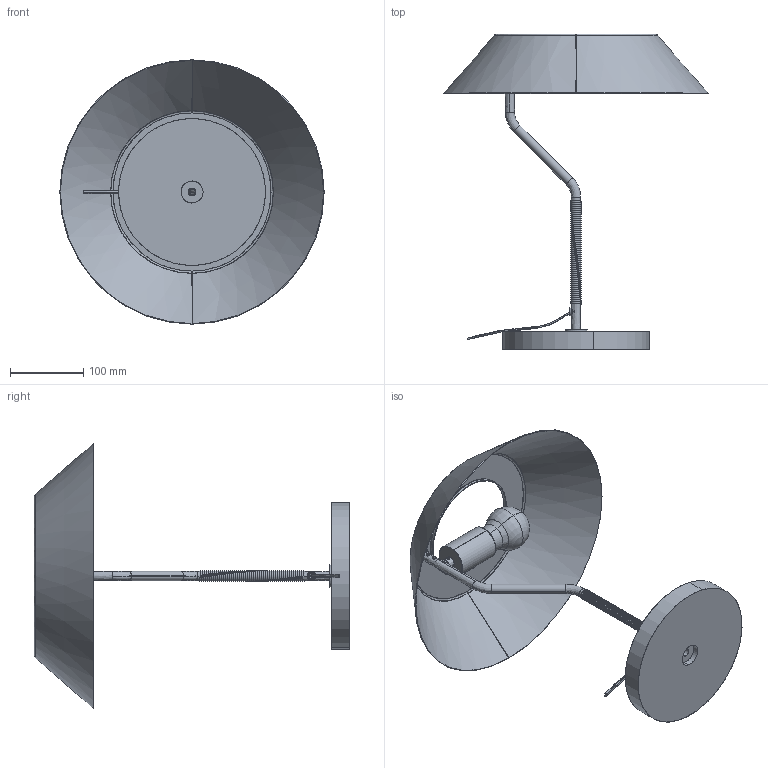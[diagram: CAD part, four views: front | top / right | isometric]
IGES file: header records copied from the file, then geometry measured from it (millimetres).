
Start section: SolidWorks IGES file using analytic representation for surfaces
Global section: file name: C:\Users\Agus\Downloads\S1287_AIDER.IGS; native system: SolidWorks 2018; preprocessor: SolidWorks 2018; author: Agus; date: 240124.155648; units: millimetre
Bounding box: 360 x 430.01 x 360 mm (x, y, z)
Surface area: 397141.8 mm2 (no closed solid volume)
Topology: 0 solids, 0 shells, 314 faces, 8276 edges, 8274 vertices
Faces by surface type: revolution 215, bspline 99
